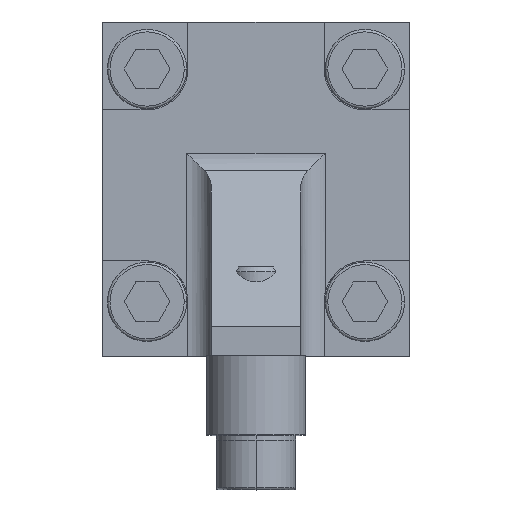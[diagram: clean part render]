
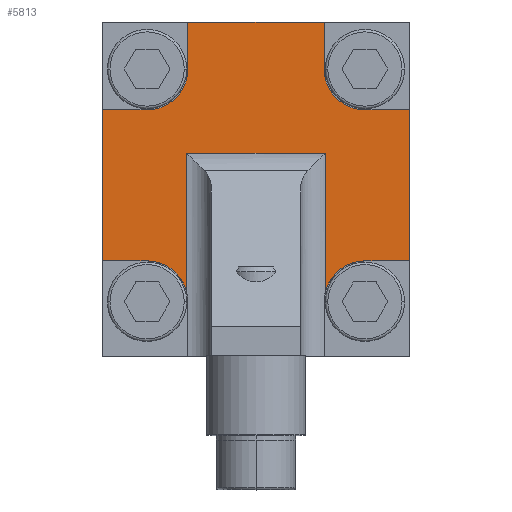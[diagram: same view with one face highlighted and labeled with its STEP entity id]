
A CAD part, top view. The second image highlights one B-rep face of the part: STEP entity #5813.
In plain terms, the highlighted planar face has unit normal (0, 0, 1).
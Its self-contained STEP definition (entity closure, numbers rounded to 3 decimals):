
#175 = LINE ( 'NONE', #3125, #6385 ) ;
#198 = CARTESIAN_POINT ( 'NONE',  ( 9., 57.036, 16. ) ) ;
#212 = AXIS2_PLACEMENT_3D ( 'NONE', #5632, #5598, #3909 ) ;
#305 = ORIENTED_EDGE ( 'NONE', *, *, #3179, .F. ) ;
#344 = CARTESIAN_POINT ( 'NONE',  ( 14., 0., 16. ) ) ;
#404 = DIRECTION ( 'NONE',  ( 0., 0., 1. ) ) ;
#638 = DIRECTION ( 'NONE',  ( -1., 0., 0. ) ) ;
#658 = DIRECTION ( 'NONE',  ( -1., 0., 0. ) ) ;
#698 = DIRECTION ( 'NONE',  ( 0., -1., 0. ) ) ;
#707 = VERTEX_POINT ( 'NONE', #1523 ) ;
#790 = ORIENTED_EDGE ( 'NONE', *, *, #3800, .T. ) ;
#901 = DIRECTION ( 'NONE',  ( -1., 0., 0. ) ) ;
#961 = ORIENTED_EDGE ( 'NONE', *, *, #4646, .F. ) ;
#1166 = CIRCLE ( 'NONE', #4174, 8.25 ) ;
#1194 = DIRECTION ( 'NONE',  ( 0., 0., -1. ) ) ;
#1247 = CIRCLE ( 'NONE', #2139, 8.25 ) ;
#1270 = VERTEX_POINT ( 'NONE', #4282 ) ;
#1297 = VERTEX_POINT ( 'NONE', #3830 ) ;
#1371 = LINE ( 'NONE', #1397, #3459 ) ;
#1373 = EDGE_CURVE ( 'NONE', #4944, #707, #1166, .T. ) ;
#1397 = CARTESIAN_POINT ( 'NONE',  ( 0., 35.25, 16. ) ) ;
#1406 = ORIENTED_EDGE ( 'NONE', *, *, #1373, .F. ) ;
#1433 = DIRECTION ( 'NONE',  ( 0., 1., 0. ) ) ;
#1451 = CARTESIAN_POINT ( 'NONE',  ( -31., 0., 16. ) ) ;
#1462 = EDGE_CURVE ( 'NONE', #707, #3513, #1371, .T. ) ;
#1512 = ORIENTED_EDGE ( 'NONE', *, *, #3036, .F. ) ;
#1523 = CARTESIAN_POINT ( 'NONE',  ( -22., 35.25, 16. ) ) ;
#1616 = CARTESIAN_POINT ( 'NONE',  ( 22., 35.25, 16. ) ) ;
#1637 = CARTESIAN_POINT ( 'NONE',  ( -14., 29.016, 16. ) ) ;
#1684 = ORIENTED_EDGE ( 'NONE', *, *, #3467, .F. ) ;
#1716 = PLANE ( 'NONE',  #4430 ) ;
#1724 = CARTESIAN_POINT ( 'NONE',  ( 13.75, 0., 16. ) ) ;
#1769 = CARTESIAN_POINT ( 'NONE',  ( -31., 83.5, 16. ) ) ;
#1785 = VERTEX_POINT ( 'NONE', #2881 ) ;
#1809 = LINE ( 'NONE', #1769, #5504 ) ;
#1831 = LINE ( 'NONE', #4003, #4007 ) ;
#1951 = VERTEX_POINT ( 'NONE', #1616 ) ;
#1971 = VECTOR ( 'NONE', #6943, 1000. ) ;
#2015 = LINE ( 'NONE', #5768, #2561 ) ;
#2139 = AXIS2_PLACEMENT_3D ( 'NONE', #3163, #4797, #901 ) ;
#2151 = VERTEX_POINT ( 'NONE', #5723 ) ;
#2213 = VECTOR ( 'NONE', #6924, 1000. ) ;
#2265 = CARTESIAN_POINT ( 'NONE',  ( 22., 27., 16. ) ) ;
#2279 = CARTESIAN_POINT ( 'NONE',  ( 13.75, 74., 16. ) ) ;
#2402 = FACE_OUTER_BOUND ( 'NONE', #3031, .T. ) ;
#2559 = CARTESIAN_POINT ( 'NONE',  ( -22., 65.75, 16. ) ) ;
#2561 = VECTOR ( 'NONE', #2583, 1000. ) ;
#2573 = DIRECTION ( 'NONE',  ( -1., 0., 0. ) ) ;
#2583 = DIRECTION ( 'NONE',  ( 0., 1., 0. ) ) ;
#2814 = DIRECTION ( 'NONE',  ( -1., 0., 0. ) ) ;
#2881 = CARTESIAN_POINT ( 'NONE',  ( -31., 65.75, 16. ) ) ;
#3027 = LINE ( 'NONE', #344, #2213 ) ;
#3031 = EDGE_LOOP ( 'NONE', ( #4492, #1406, #3285, #6895, #4990, #5476, #1512, #5327, #961, #305, #1684, #4406, #5010, #4644, #4971, #790 ) ) ;
#3036 = EDGE_CURVE ( 'NONE', #3501, #1951, #1831, .T. ) ;
#3061 = CARTESIAN_POINT ( 'NONE',  ( -31., 35.25, 16. ) ) ;
#3081 = CIRCLE ( 'NONE', #212, 8.25 ) ;
#3090 = VECTOR ( 'NONE', #698, 1000. ) ;
#3125 = CARTESIAN_POINT ( 'NONE',  ( -13.75, 0., 16. ) ) ;
#3126 = EDGE_CURVE ( 'NONE', #1270, #3182, #175, .T. ) ;
#3163 = CARTESIAN_POINT ( 'NONE',  ( 22., 74., 16. ) ) ;
#3179 = EDGE_CURVE ( 'NONE', #6761, #6406, #1247, .T. ) ;
#3182 = VERTEX_POINT ( 'NONE', #6981 ) ;
#3218 = EDGE_CURVE ( 'NONE', #1951, #6533, #3668, .T. ) ;
#3236 = VERTEX_POINT ( 'NONE', #3364 ) ;
#3267 = VECTOR ( 'NONE', #6850, 1000. ) ;
#3285 = ORIENTED_EDGE ( 'NONE', *, *, #5086, .T. ) ;
#3331 = DIRECTION ( 'NONE',  ( -1., 0., 0. ) ) ;
#3349 = CARTESIAN_POINT ( 'NONE',  ( 22., 65.75, 16. ) ) ;
#3364 = CARTESIAN_POINT ( 'NONE',  ( 13.75, 83.5, 16. ) ) ;
#3459 = VECTOR ( 'NONE', #6835, 1000. ) ;
#3467 = EDGE_CURVE ( 'NONE', #3236, #6761, #6589, .T. ) ;
#3501 = VERTEX_POINT ( 'NONE', #4667 ) ;
#3513 = VERTEX_POINT ( 'NONE', #3061 ) ;
#3603 = DIRECTION ( 'NONE',  ( -1., 0., 0. ) ) ;
#3667 = EDGE_CURVE ( 'NONE', #3236, #3182, #1809, .T. ) ;
#3668 = CIRCLE ( 'NONE', #5389, 8.25 ) ;
#3800 = EDGE_CURVE ( 'NONE', #1785, #3513, #6328, .T. ) ;
#3830 = CARTESIAN_POINT ( 'NONE',  ( -14., 57.036, 16. ) ) ;
#3901 = VECTOR ( 'NONE', #5169, 1000. ) ;
#3909 = DIRECTION ( 'NONE',  ( -1., 0., 0. ) ) ;
#3928 = CARTESIAN_POINT ( 'NONE',  ( 0., 0., 16. ) ) ;
#3946 = LINE ( 'NONE', #198, #6286 ) ;
#3990 = DIRECTION ( 'NONE',  ( 1., 0., 0. ) ) ;
#4003 = CARTESIAN_POINT ( 'NONE',  ( 0., 35.25, 16. ) ) ;
#4007 = VECTOR ( 'NONE', #3603, 1000. ) ;
#4174 = AXIS2_PLACEMENT_3D ( 'NONE', #5829, #404, #2573 ) ;
#4282 = CARTESIAN_POINT ( 'NONE',  ( -13.75, 74., 16. ) ) ;
#4375 = EDGE_CURVE ( 'NONE', #2151, #1297, #3946, .T. ) ;
#4381 = EDGE_CURVE ( 'NONE', #6443, #1270, #3081, .T. ) ;
#4406 = ORIENTED_EDGE ( 'NONE', *, *, #3667, .T. ) ;
#4430 = AXIS2_PLACEMENT_3D ( 'NONE', #3928, #1194, #658 ) ;
#4492 = ORIENTED_EDGE ( 'NONE', *, *, #1462, .F. ) ;
#4644 = ORIENTED_EDGE ( 'NONE', *, *, #4381, .F. ) ;
#4646 = EDGE_CURVE ( 'NONE', #6406, #6774, #5603, .T. ) ;
#4667 = CARTESIAN_POINT ( 'NONE',  ( 31., 35.25, 16. ) ) ;
#4797 = DIRECTION ( 'NONE',  ( 0., 0., 1. ) ) ;
#4944 = VERTEX_POINT ( 'NONE', #1637 ) ;
#4971 = ORIENTED_EDGE ( 'NONE', *, *, #6530, .F. ) ;
#4990 = ORIENTED_EDGE ( 'NONE', *, *, #5116, .T. ) ;
#5010 = ORIENTED_EDGE ( 'NONE', *, *, #3126, .F. ) ;
#5056 = DIRECTION ( 'NONE',  ( 0., 0., 1. ) ) ;
#5086 = EDGE_CURVE ( 'NONE', #4944, #1297, #2015, .T. ) ;
#5108 = EDGE_CURVE ( 'NONE', #3501, #6774, #5805, .T. ) ;
#5116 = EDGE_CURVE ( 'NONE', #2151, #6533, #3027, .T. ) ;
#5169 = DIRECTION ( 'NONE',  ( 0., -1., 0. ) ) ;
#5256 = CARTESIAN_POINT ( 'NONE',  ( 14., 29.016, 16. ) ) ;
#5327 = ORIENTED_EDGE ( 'NONE', *, *, #5108, .T. ) ;
#5389 = AXIS2_PLACEMENT_3D ( 'NONE', #2265, #5056, #638 ) ;
#5476 = ORIENTED_EDGE ( 'NONE', *, *, #3218, .F. ) ;
#5504 = VECTOR ( 'NONE', #3331, 1000. ) ;
#5598 = DIRECTION ( 'NONE',  ( 0., 0., 1. ) ) ;
#5603 = LINE ( 'NONE', #5705, #6057 ) ;
#5632 = CARTESIAN_POINT ( 'NONE',  ( -22., 74., 16. ) ) ;
#5705 = CARTESIAN_POINT ( 'NONE',  ( 0., 65.75, 16. ) ) ;
#5723 = CARTESIAN_POINT ( 'NONE',  ( 14., 57.036, 16. ) ) ;
#5754 = LINE ( 'NONE', #6908, #1971 ) ;
#5768 = CARTESIAN_POINT ( 'NONE',  ( -14., 57.036, 16. ) ) ;
#5805 = LINE ( 'NONE', #6249, #3267 ) ;
#5813 = ADVANCED_FACE ( 'NONE', ( #2402 ), #1716, .F. ) ;
#5829 = CARTESIAN_POINT ( 'NONE',  ( -22., 27., 16. ) ) ;
#6057 = VECTOR ( 'NONE', #3990, 1000. ) ;
#6154 = CARTESIAN_POINT ( 'NONE',  ( 31., 65.75, 16. ) ) ;
#6249 = CARTESIAN_POINT ( 'NONE',  ( 31., 0., 16. ) ) ;
#6286 = VECTOR ( 'NONE', #2814, 1000. ) ;
#6328 = LINE ( 'NONE', #1451, #3901 ) ;
#6385 = VECTOR ( 'NONE', #1433, 1000. ) ;
#6406 = VERTEX_POINT ( 'NONE', #3349 ) ;
#6443 = VERTEX_POINT ( 'NONE', #2559 ) ;
#6530 = EDGE_CURVE ( 'NONE', #1785, #6443, #5754, .T. ) ;
#6533 = VERTEX_POINT ( 'NONE', #5256 ) ;
#6589 = LINE ( 'NONE', #1724, #3090 ) ;
#6761 = VERTEX_POINT ( 'NONE', #2279 ) ;
#6774 = VERTEX_POINT ( 'NONE', #6154 ) ;
#6835 = DIRECTION ( 'NONE',  ( -1., 0., 0. ) ) ;
#6850 = DIRECTION ( 'NONE',  ( 0., 1., 0. ) ) ;
#6895 = ORIENTED_EDGE ( 'NONE', *, *, #4375, .F. ) ;
#6908 = CARTESIAN_POINT ( 'NONE',  ( 0., 65.75, 16. ) ) ;
#6924 = DIRECTION ( 'NONE',  ( 0., -1., 0. ) ) ;
#6943 = DIRECTION ( 'NONE',  ( 1., 0., 0. ) ) ;
#6981 = CARTESIAN_POINT ( 'NONE',  ( -13.75, 83.5, 16. ) ) ;
